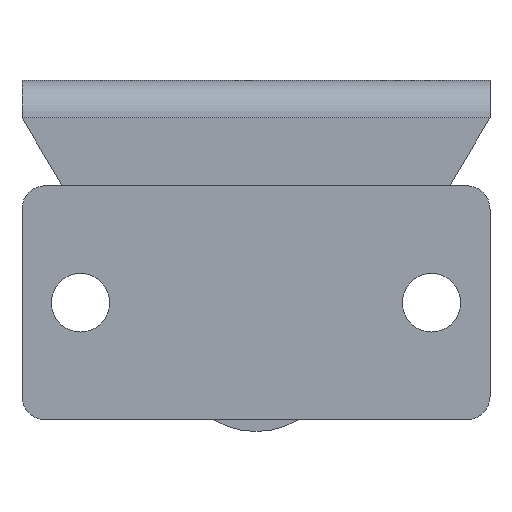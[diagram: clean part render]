
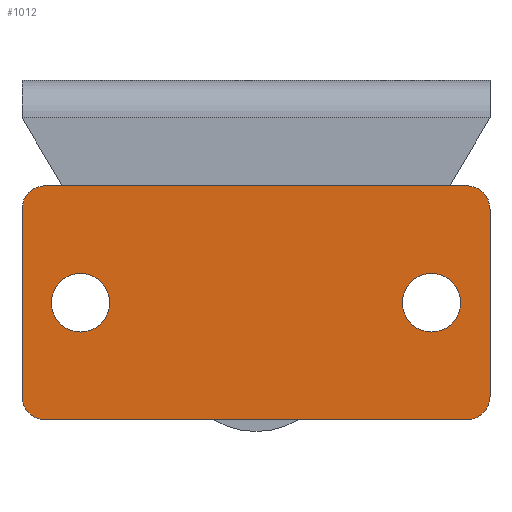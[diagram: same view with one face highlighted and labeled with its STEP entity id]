
A CAD part, front view. The second image highlights one B-rep face of the part: STEP entity #1012.
In plain terms, the highlighted planar face has unit normal (0, -1, 0).
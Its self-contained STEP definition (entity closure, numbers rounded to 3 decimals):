
#59=PLANE('',#1095);
#100=LINE('',#1494,#174);
#104=LINE('',#1506,#178);
#108=LINE('',#1518,#182);
#111=LINE('',#1527,#185);
#174=VECTOR('',#1205,36.);
#178=VECTOR('',#1217,16.);
#182=VECTOR('',#1229,36.);
#185=VECTOR('',#1240,16.);
#248=FACE_BOUND('',#350,.T.);
#249=FACE_BOUND('',#351,.T.);
#280=FACE_OUTER_BOUND('',#349,.T.);
#349=EDGE_LOOP('',(#748,#749,#750,#751,#752,#753,#754,#755));
#350=EDGE_LOOP('',(#756));
#351=EDGE_LOOP('',(#757));
#425=CIRCLE('',#1074,2.5);
#427=CIRCLE('',#1077,2.5);
#429=CIRCLE('',#1080,2.);
#431=CIRCLE('',#1084,2.);
#433=CIRCLE('',#1088,2.);
#435=CIRCLE('',#1092,2.);
#467=VERTEX_POINT('',#1473);
#469=VERTEX_POINT('',#1478);
#472=VERTEX_POINT('',#1484);
#473=VERTEX_POINT('',#1486);
#475=VERTEX_POINT('',#1492);
#477=VERTEX_POINT('',#1498);
#479=VERTEX_POINT('',#1504);
#481=VERTEX_POINT('',#1510);
#483=VERTEX_POINT('',#1516);
#485=VERTEX_POINT('',#1522);
#563=EDGE_CURVE('',#467,#467,#425,.T.);
#565=EDGE_CURVE('',#469,#469,#427,.T.);
#568=EDGE_CURVE('',#473,#472,#429,.T.);
#572=EDGE_CURVE('',#472,#475,#100,.T.);
#575=EDGE_CURVE('',#475,#477,#431,.T.);
#578=EDGE_CURVE('',#477,#479,#104,.T.);
#581=EDGE_CURVE('',#479,#481,#433,.T.);
#584=EDGE_CURVE('',#481,#483,#108,.T.);
#587=EDGE_CURVE('',#483,#485,#435,.T.);
#589=EDGE_CURVE('',#485,#473,#111,.T.);
#748=ORIENTED_EDGE('',*,*,#589,.T.);
#749=ORIENTED_EDGE('',*,*,#568,.T.);
#750=ORIENTED_EDGE('',*,*,#572,.T.);
#751=ORIENTED_EDGE('',*,*,#575,.T.);
#752=ORIENTED_EDGE('',*,*,#578,.T.);
#753=ORIENTED_EDGE('',*,*,#581,.T.);
#754=ORIENTED_EDGE('',*,*,#584,.T.);
#755=ORIENTED_EDGE('',*,*,#587,.T.);
#756=ORIENTED_EDGE('',*,*,#563,.T.);
#757=ORIENTED_EDGE('',*,*,#565,.T.);
#1012=ADVANCED_FACE('',(#280,#248,#249),#59,.F.);
#1074=AXIS2_PLACEMENT_3D('',#1474,#1185,#1186);
#1077=AXIS2_PLACEMENT_3D('',#1479,#1191,#1192);
#1080=AXIS2_PLACEMENT_3D('',#1487,#1198,#1199);
#1084=AXIS2_PLACEMENT_3D('',#1500,#1211,#1212);
#1088=AXIS2_PLACEMENT_3D('',#1512,#1223,#1224);
#1092=AXIS2_PLACEMENT_3D('',#1524,#1235,#1236);
#1095=AXIS2_PLACEMENT_3D('',#1529,#1243,#1244);
#1185=DIRECTION('center_axis',(0.,1.,0.));
#1186=DIRECTION('ref_axis',(1.,0.,0.));
#1191=DIRECTION('center_axis',(0.,1.,0.));
#1192=DIRECTION('ref_axis',(1.,0.,0.));
#1198=DIRECTION('center_axis',(0.,-1.,0.));
#1199=DIRECTION('ref_axis',(0.,0.,-1.));
#1205=DIRECTION('',(-1.,0.,0.));
#1211=DIRECTION('center_axis',(0.,-1.,0.));
#1212=DIRECTION('ref_axis',(1.,0.,0.));
#1217=DIRECTION('',(0.,0.,-1.));
#1223=DIRECTION('center_axis',(0.,-1.,0.));
#1224=DIRECTION('ref_axis',(0.,0.,1.));
#1229=DIRECTION('',(1.,0.,0.));
#1235=DIRECTION('center_axis',(0.,-1.,0.));
#1236=DIRECTION('ref_axis',(-1.,0.,0.));
#1240=DIRECTION('',(0.,0.,1.));
#1243=DIRECTION('center_axis',(0.,1.,0.));
#1244=DIRECTION('ref_axis',(0.,0.,1.));
#1473=CARTESIAN_POINT('',(-15.284,11.665,0.));
#1474=CARTESIAN_POINT('Origin',(-12.784,11.665,0.));
#1478=CARTESIAN_POINT('',(14.716,11.665,0.));
#1479=CARTESIAN_POINT('Origin',(17.216,11.665,0.));
#1484=CARTESIAN_POINT('',(20.216,11.665,10.));
#1486=CARTESIAN_POINT('',(22.216,11.665,8.));
#1487=CARTESIAN_POINT('Origin',(20.216,11.665,8.));
#1492=CARTESIAN_POINT('',(-15.784,11.665,10.));
#1494=CARTESIAN_POINT('',(20.216,11.665,10.));
#1498=CARTESIAN_POINT('',(-17.784,11.665,8.));
#1500=CARTESIAN_POINT('Origin',(-15.784,11.665,8.));
#1504=CARTESIAN_POINT('',(-17.784,11.665,-8.));
#1506=CARTESIAN_POINT('',(-17.784,11.665,8.));
#1510=CARTESIAN_POINT('',(-15.784,11.665,-10.));
#1512=CARTESIAN_POINT('Origin',(-15.784,11.665,-8.));
#1516=CARTESIAN_POINT('',(20.216,11.665,-10.));
#1518=CARTESIAN_POINT('',(-15.784,11.665,-10.));
#1522=CARTESIAN_POINT('',(22.216,11.665,-8.));
#1524=CARTESIAN_POINT('Origin',(20.216,11.665,-8.));
#1527=CARTESIAN_POINT('',(22.216,11.665,-8.));
#1529=CARTESIAN_POINT('Origin',(2.216,11.665,0.));
